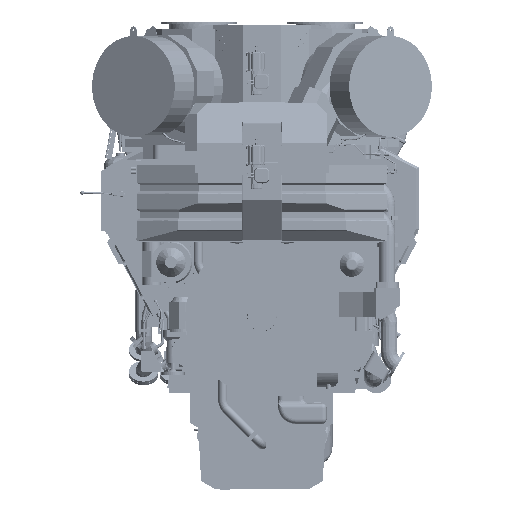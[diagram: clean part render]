
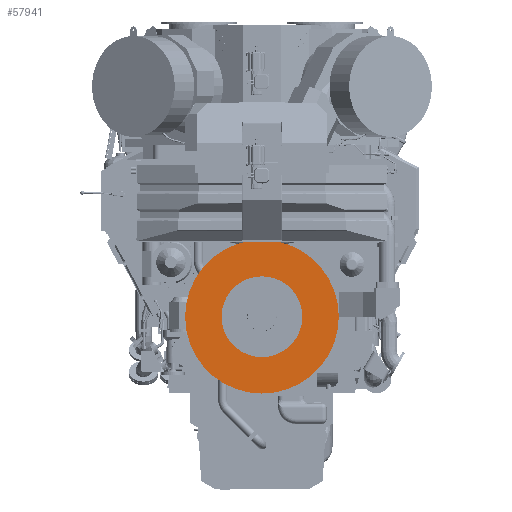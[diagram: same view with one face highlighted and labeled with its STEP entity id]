
A CAD part, left-side view. The second image highlights one B-rep face of the part: STEP entity #57941.
In plain terms, the highlighted planar face has unit normal (-1, 0, 0).
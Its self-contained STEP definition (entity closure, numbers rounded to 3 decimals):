
#19373=FACE_BOUND('',#104602,.T.);
#19374=FACE_BOUND('',#104603,.T.);
#39916=CIRCLE('',#334953,656.);
#39918=CIRCLE('',#334956,345.);
#57941=ADVANCED_FACE('',(#19373,#19374),#67723,.F.);
#67723=PLANE('',#334957);
#104602=EDGE_LOOP('',(#187900));
#104603=EDGE_LOOP('',(#187901));
#187900=ORIENTED_EDGE('',*,*,#257121,.T.);
#187901=ORIENTED_EDGE('',*,*,#257119,.F.);
#215470=VERTEX_POINT('',#648259);
#215472=VERTEX_POINT('',#648264);
#257119=EDGE_CURVE('',#215470,#215470,#39916,.T.);
#257121=EDGE_CURVE('',#215472,#215472,#39918,.T.);
#334953=AXIS2_PLACEMENT_3D('',#648258,#416281,#416282);
#334956=AXIS2_PLACEMENT_3D('',#648263,#416287,#416288);
#334957=AXIS2_PLACEMENT_3D('',#648265,#416289,#416290);
#416281=DIRECTION('',(1.,0.,0.));
#416282=DIRECTION('',(0.,1.,0.));
#416287=DIRECTION('',(1.,0.,0.));
#416288=DIRECTION('',(0.,1.,0.));
#416289=DIRECTION('',(1.,0.,0.));
#416290=DIRECTION('',(0.,0.,-1.));
#648258=CARTESIAN_POINT('',(0.,0.,0.));
#648259=CARTESIAN_POINT('',(0.,656.,0.));
#648263=CARTESIAN_POINT('',(0.,0.,0.));
#648264=CARTESIAN_POINT('',(0.,345.,0.));
#648265=CARTESIAN_POINT('',(0.,0.,0.));
